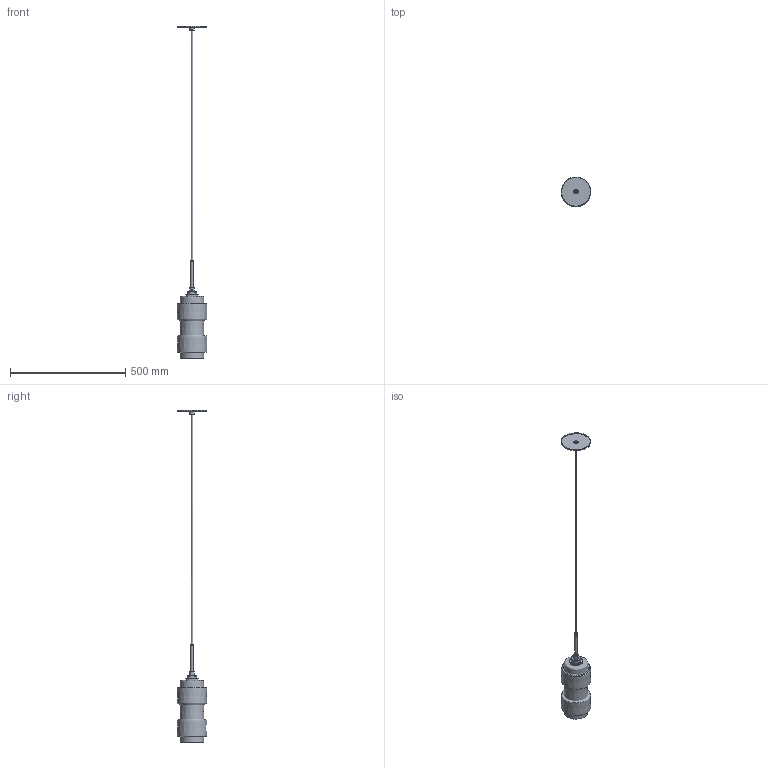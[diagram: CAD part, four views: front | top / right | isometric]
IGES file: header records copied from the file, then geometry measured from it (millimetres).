
Global section: file name: Niche - Muralla Pendant; native system: unknown; preprocessor: unknown; author: unknown; organization: unknown; date: 20220927.152317; units: inch
Bounding box: 127 x 127 x 1438.91 mm (x, y, z)
Volume: 531787.6 mm3; surface area: 340316.1 mm2
Topology: 11 solids, 11 shells, 138 faces, 331 edges, 220 vertices
Faces by surface type: bspline 138
